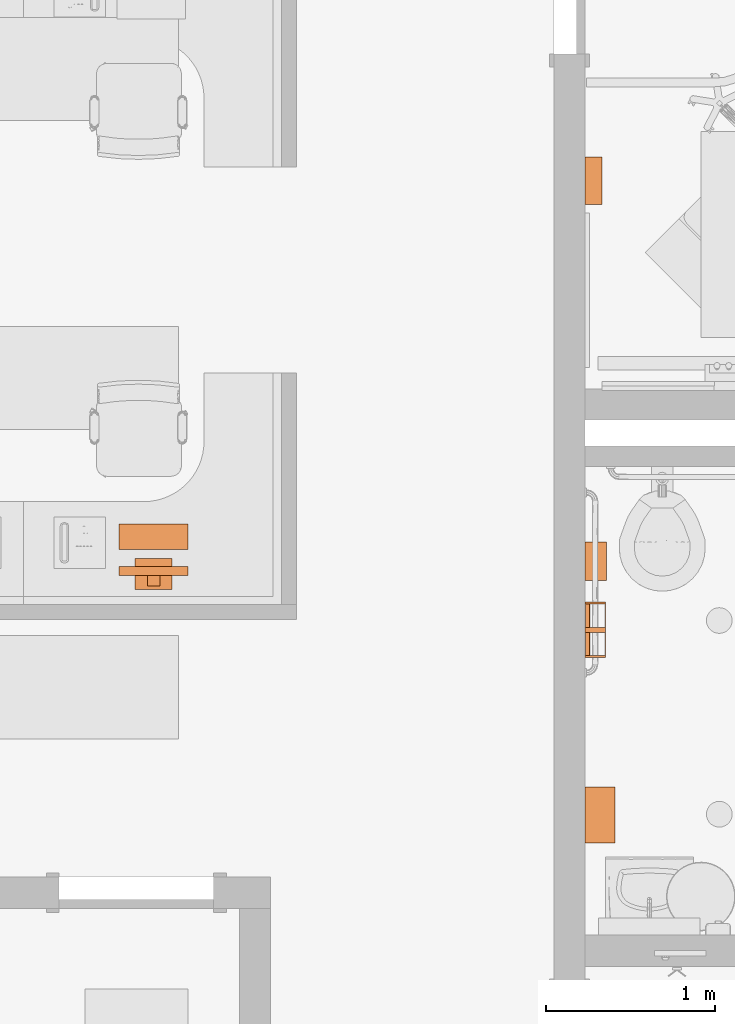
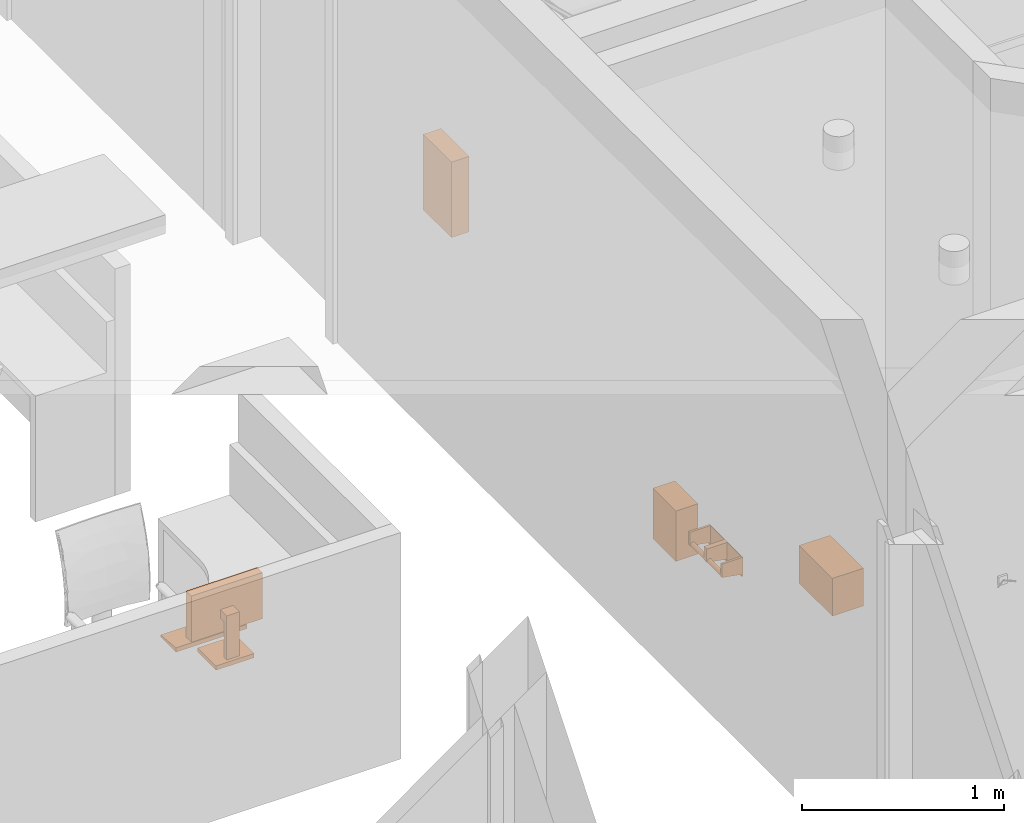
# One storey, part 88 of 142: 5 proxies.
"""IFC2X3 building model written with IfcOpenShell, lengths in feet."""

from ifc_helpers import new_model, entity, si_unit, converted_unit, derived_unit, direction, frame, frame_2d, origin, origin_2d_with_axis, place, context, subcontext, project, spatial, polyline, rectangle, circle, outline, extrude, faceted_brep, source, transform, mapped, type_object, type_shapes, element, save


model = new_model("IFC2X3")

# Units and contexts
model_context = context("Model", 3, precision=0.0001, world=origin(), true_north=direction((6.12303176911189e-17, 1.0)))
body_context = subcontext(model_context, "Body", "Model", "MODEL_VIEW")
ifc_project = project(units=[converted_unit("LENGTHUNIT", "FOOT", entity("IfcRatioMeasure", 0.3048), si_unit("LENGTHUNIT", "METRE"), dimensions=[1, 0, 0, 0, 0, 0, 0]), converted_unit("AREAUNIT", "SQUARE FOOT", entity("IfcRatioMeasure", 0.09290304), si_unit("AREAUNIT", "SQUARE_METRE"), dimensions=[2, 0, 0, 0, 0, 0, 0]), converted_unit("VOLUMEUNIT", "CUBIC FOOT", entity("IfcRatioMeasure", 0.028316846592), si_unit("VOLUMEUNIT", "CUBIC_METRE"), dimensions=[3, 0, 0, 0, 0, 0, 0]), converted_unit("PLANEANGLEUNIT", "DEGREE", entity("IfcRatioMeasure", 0.0174532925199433), si_unit("PLANEANGLEUNIT", "RADIAN"), dimensions=[0, 0, 0, 0, 0, 0, 0]), si_unit("MASSUNIT", "GRAM", prefix="KILO"), derived_unit("MASSDENSITYUNIT", [(si_unit("MASSUNIT", "GRAM", prefix="KILO"), 1), (si_unit("LENGTHUNIT", "METRE"), -3)]), si_unit("TIMEUNIT", "SECOND"), si_unit("FREQUENCYUNIT", "HERTZ"), si_unit("THERMODYNAMICTEMPERATUREUNIT", "DEGREE_CELSIUS"), derived_unit("THERMALTRANSMITTANCEUNIT", [(si_unit("MASSUNIT", "GRAM", prefix="KILO"), 1), (si_unit("THERMODYNAMICTEMPERATUREUNIT", "KELVIN"), -1), (si_unit("TIMEUNIT", "SECOND"), -3)]), derived_unit("VOLUMETRICFLOWRATEUNIT", [(si_unit("LENGTHUNIT", "METRE"), 3), (si_unit("TIMEUNIT", "SECOND"), -1)]), si_unit("ELECTRICCURRENTUNIT", "AMPERE"), si_unit("ELECTRICVOLTAGEUNIT", "VOLT"), si_unit("POWERUNIT", "WATT"), si_unit("FORCEUNIT", "NEWTON"), si_unit("ILLUMINANCEUNIT", "LUX"), si_unit("LUMINOUSFLUXUNIT", "LUMEN"), si_unit("LUMINOUSINTENSITYUNIT", "CANDELA"), derived_unit("USERDEFINED", [(si_unit("MASSUNIT", "GRAM", prefix="KILO"), -1), (si_unit("LENGTHUNIT", "METRE"), -2), (si_unit("TIMEUNIT", "SECOND"), 3), (si_unit("LUMINOUSFLUXUNIT", "LUMEN"), 1)]), derived_unit("LINEARVELOCITYUNIT", [(si_unit("LENGTHUNIT", "METRE"), 1), (si_unit("TIMEUNIT", "SECOND"), -1)]), si_unit("PRESSUREUNIT", "PASCAL"), derived_unit("USERDEFINED", [(si_unit("LENGTHUNIT", "METRE"), -2), (si_unit("MASSUNIT", "GRAM", prefix="KILO"), 1), (si_unit("TIMEUNIT", "SECOND"), -2)])], contexts=[model_context])

# Site, building, storey, space
site_placement = place(None, origin())
site = spatial("IfcSite", under=ifc_project, at=site_placement, Name="Default", CompositionType="ELEMENT")
building_placement = place(site_placement, origin())
building = spatial("IfcBuilding", under=site, at=building_placement, Name="OUTPATIENT / PACT CLINIC (Ch. 265)", CompositionType="ELEMENT")
storey_placement = place(building_placement, origin())
storey = spatial("IfcBuildingStorey", under=building, at=storey_placement, Name="LEVEL 1", CompositionType="ELEMENT", Elevation=0.0)
space_1_placement = place(storey_placement, origin())
space_1 = spatial("IfcSpace", under=storey, at=space_1_placement, Name="WRTM1", CompositionType="ELEMENT", InteriorOrExteriorSpace="INTERNAL")

# Proxy
building_element_proxy_type_1 = type_object("IfcBuildingElementProxyType", Name="M1801 - Computer with Flat Panel Monitor", PredefinedType="NOTDEFINED")
shared_shape_1 = source(origin(), body_context, "Body", "Brep", [
    faceted_brep([(0.666666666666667, 0.5625, 0.0), (0.666666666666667, 0.5625, 0.0416666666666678), (0.666666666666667, 0.0624999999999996, 0.0833333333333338), (0.666666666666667, 0.0624999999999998, 0.0), (-0.666666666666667, 0.5625, 0.0), (-0.666666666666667, 0.0624999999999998, 0.0), (-0.666666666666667, 0.0624999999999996, 0.0833333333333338), (-0.666666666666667, 0.5625, 0.0416666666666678)], [[[0, 1, 2, 3]], [[4, 5, 6, 7]], [[3, 5, 4, 0]], [[2, 6, 5, 3]], [[1, 7, 6, 2]], [[0, 4, 7, 1]]]),
    faceted_brep([(0.666666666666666, -0.437223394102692, 1.41666666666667), (0.666666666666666, -0.271109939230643, 1.41666666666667), (-0.666666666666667, -0.271109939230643, 1.41666666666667), (-0.666666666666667, -0.437223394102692, 1.41666666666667), (0.666666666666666, -0.437223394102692, 0.500000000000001), (-0.666666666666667, -0.437223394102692, 0.500000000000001), (-0.666666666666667, -0.271109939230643, 0.500000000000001), (0.666666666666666, -0.271109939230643, 0.500000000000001), (-0.625, -0.271109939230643, 1.375), (-0.625, -0.271109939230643, 0.541666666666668), (0.625, -0.271109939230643, 0.541666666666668), (0.625, -0.271109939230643, 1.375), (0.625, -0.286812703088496, 1.375), (-0.625, -0.286812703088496, 1.375), (0.625, -0.286812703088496, 0.541666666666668), (-0.625, -0.286812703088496, 0.541666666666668)], [[[0, 1, 2, 3]], [[4, 5, 6, 7]], [[3, 5, 4, 0]], [[2, 6, 5, 3]], [[8, 9, 10, 11], [1, 7, 6, 2]], [[0, 4, 7, 1]], [[12, 13, 8, 11]], [[14, 10, 9, 15]], [[12, 14, 15, 13]], [[13, 15, 9, 8]], [[11, 10, 14, 12]]], outer=[[True], [True], [True], [True], [False, True], [True], [True], [True], [True], [True], [True]]),
    faceted_brep([(0.358011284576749, -0.111770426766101, 0.0833333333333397), (0.358011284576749, -0.708333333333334, 0.0833333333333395), (0.358011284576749, -0.708333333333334, 0.0), (0.358011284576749, -0.111770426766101, 0.0), (-0.358011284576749, -0.708333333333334, 0.0833333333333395), (-0.358011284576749, -0.111770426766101, 0.0833333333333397), (-0.358011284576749, -0.111770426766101, 0.0), (-0.358011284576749, -0.708333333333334, 0.0), (0.12128795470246, -0.645556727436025, 0.104166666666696), (-0.12128795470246, -0.645556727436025, 0.104166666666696), (-0.12128795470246, -0.645556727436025, 0.0833333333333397), (0.12128795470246, -0.645556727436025, 0.0833333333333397), (0.12128795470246, -0.645556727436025, 0.958333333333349), (-0.12128795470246, -0.645556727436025, 0.958333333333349), (0.12128795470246, -0.437223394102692, 0.958333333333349), (-0.12128795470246, -0.437223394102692, 0.958333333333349), (0.12128795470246, -0.437223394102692, 0.791666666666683), (-0.12128795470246, -0.437223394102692, 0.791666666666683), (0.12128795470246, -0.562223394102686, 0.791666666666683), (-0.12128795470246, -0.562223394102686, 0.791666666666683), (0.12128795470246, -0.562223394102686, 0.0833333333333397), (-0.12128795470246, -0.562223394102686, 0.0833333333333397)], [[[0, 1, 2, 3]], [[4, 5, 6, 7]], [[8, 9, 10, 11]], [[12, 13, 9, 8]], [[14, 15, 13, 12]], [[16, 17, 15, 14]], [[18, 19, 17, 16]], [[20, 21, 19, 18]], [[11, 10, 21, 20], [0, 5, 4, 1]], [[3, 6, 5, 0]], [[2, 7, 6, 3]], [[1, 4, 7, 2]], [[20, 18, 16, 14, 12, 8, 11]], [[10, 9, 13, 15, 17, 19, 21]]], outer=[[True], [True], [True], [True], [True], [True], [True], [True], [False, True], [True], [True], [True], [True], [True]]),
])
type_shapes(building_element_proxy_type_1, [shared_shape_1])
proxy_1_placement = place(space_1_placement, frame((426.87856468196, -934.622044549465, 2.49999999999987)))
element("IfcBuildingElementProxy", 1, at=proxy_1_placement, inside=space_1, type_object=building_element_proxy_type_1, Name="M1801 - Computer with Flat Panel Monitor:M1801 - Computer with Flat Panel Monitor", ObjectType="M1801 - Computer with Flat Panel Monitor", context=body_context, shape_type="MappedRepresentation", body=[
    mapped(shared_shape_1, transform((0.0, 0.0, 0.0), scale=1.0)),
])

# Space
space_2_placement = place(storey_placement, origin())
space_2 = spatial("IfcSpace", under=storey, at=space_2_placement, Name="EXW01", CompositionType="ELEMENT", InteriorOrExteriorSpace="INTERNAL")

# Proxy
building_element_proxy_type_2 = type_object("IfcBuildingElementProxyType", Name="A5107 - Dispenser, Glove, Surgical-Examination, Wall Mntd 10\"x 4\"", PredefinedType="NOTDEFINED")
shared_shape_2 = source(origin(), body_context, "Body", "SweptSolid", [
    extrude(rectangle(XDim=0.916666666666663, YDim=0.333333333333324, at=frame_2d((0.0, 2.77555756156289e-17), x_axis=(1.0, 0.0))), frame((0.0, -0.166666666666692, 0.0), z_axis=(0.0, 0.0, 1.0), x_axis=(-1.0, 0.0, 0.0)), (0.0, 0.0, 1.0), 1.5),
])
type_shapes(building_element_proxy_type_2, [shared_shape_2])
proxy_2_placement = place(space_2_placement, frame((435.254977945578, -927.399675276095, 3.5), z_axis=(0.0, 0.0, 1.0), x_axis=(0.0, 1.0, 0.0)))
element("IfcBuildingElementProxy", 2, at=proxy_2_placement, inside=space_2, type_object=building_element_proxy_type_2, Name="A5107 - Dispenser, Glove, Surgical-Examination, Wall Mntd1:A5107 - Dispenser, Glove, Surgical-Examination, Wall Mntd 10\"x 4\"", ObjectType="A5107 - Dispenser, Glove, Surgical-Examination, Wall Mntd 10\"x 4\"", context=body_context, shape_type="MappedRepresentation", body=[
    mapped(shared_shape_2, transform((0.0, 0.0, 0.0), scale=1.0)),
])

# Space
space_3_placement = place(storey_placement, origin())
space_3 = spatial("IfcSpace", under=storey, at=space_3_placement, Name="TPG01", CompositionType="ELEMENT", InteriorOrExteriorSpace="INTERNAL")

# Proxies
building_element_proxy_type_3 = type_object("IfcBuildingElementProxyType", Name="A5200 - Dispenser, Toilet Tissue, SS, 2-Roll, Surface Mntd", PredefinedType="NOTDEFINED")
shared_shape_3 = source(origin(), body_context, "Body", "SweptSolid", [
    extrude(circle(Radius=0.0439072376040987, at=frame_2d((-4.93038065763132e-32, -5.55111512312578e-17), x_axis=(1.0, 0.0))), frame((0.0468750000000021, -0.344872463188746, 0.125668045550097), z_axis=(1.0, 0.0, 0.0), x_axis=(0.0, 0.0, 1.0)), (0.0, 0.0, 1.0), 0.453124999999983),
    extrude(circle(Radius=0.0061848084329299, at=origin_2d_with_axis()), frame((0.0468750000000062, -0.34487246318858, 0.125668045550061), z_axis=(1.0, 0.0, 0.0), x_axis=(0.0, -1.0, 0.0)), (0.0, 0.0, 1.0), 0.453124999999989),
    extrude(circle(Radius=0.0439072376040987, at=frame_2d((-9.86076131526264e-32, -1.11022302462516e-16), x_axis=(1.0, 0.0))), frame((-0.500000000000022, -0.344872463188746, 0.125668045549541), z_axis=(1.0, 0.0, 0.0), x_axis=(0.0, 0.0, 1.0)), (0.0, 0.0, 1.0), 0.453124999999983),
    extrude(rectangle(XDim=0.0104166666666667, YDim=0.541666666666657, at=origin_2d_with_axis()), frame((0.270833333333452, -0.00520833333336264, 0.0), z_axis=(0.0, 0.0, 1.0), x_axis=(0.0, 1.0, 0.0)), (0.0, 0.0, 1.0), 0.375668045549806),
    extrude(outline(polyline([(-0.140625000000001, -0.225313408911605), (0.255208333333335, -0.225313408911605), (0.255208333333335, 0.0412295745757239), (-0.114583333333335, 0.108687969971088), (-0.114583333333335, 0.150354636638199), (-0.140625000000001, 0.150354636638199), (-0.140625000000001, -0.225313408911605)])), frame((0.0, -0.140625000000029, 0.15035463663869), z_axis=(1.0, 0.0, 0.0), x_axis=(0.0, -1.0, 0.0)), (0.0, 0.0, 1.0), 0.0468750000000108),
    extrude(outline(polyline([(-0.140625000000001, -0.225313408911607), (0.255208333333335, -0.225313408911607), (0.255208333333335, 0.0412295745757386), (-0.114583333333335, 0.108687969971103), (-0.114583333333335, 0.150354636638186), (-0.140625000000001, 0.150354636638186), (-0.140625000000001, -0.225313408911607)])), frame((0.49999999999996, -0.140625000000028, 0.150354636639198), z_axis=(1.0, 0.0, 0.0), x_axis=(0.0, -1.0, 0.0)), (0.0, 0.0, 1.0), 0.0416666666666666),
    extrude(circle(Radius=0.0061848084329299, at=frame_2d((-2.46519032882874e-32, -2.77555756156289e-17), x_axis=(1.0, 0.0))), frame((-0.500000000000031, -0.344872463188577, 0.125668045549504), z_axis=(1.0, 0.0, 0.0), x_axis=(0.0, -1.0, 0.0)), (0.0, 0.0, 1.0), 0.453124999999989),
    extrude(rectangle(XDim=0.0104166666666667, YDim=0.541666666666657, at=origin_2d_with_axis()), frame((-0.27083333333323, -0.00520833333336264, 0.0), z_axis=(0.0, 0.0, 1.0), x_axis=(0.0, 1.0, 0.0)), (0.0, 0.0, 1.0), 0.375668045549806),
    extrude(outline(polyline([(-0.140625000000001, -0.225313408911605), (0.255208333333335, -0.225313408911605), (0.255208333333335, 0.041229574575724), (-0.114583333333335, 0.108687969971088), (-0.114583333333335, 0.150354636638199), (-0.140625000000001, 0.150354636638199), (-0.140625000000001, -0.225313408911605)])), frame((-0.0468750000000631, -0.140625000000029, 0.150354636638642), z_axis=(1.0, 0.0, 0.0), x_axis=(0.0, -1.0, 0.0)), (0.0, 0.0, 1.0), 0.0468750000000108),
    extrude(outline(polyline([(-0.140625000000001, -0.225313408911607), (0.255208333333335, -0.225313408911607), (0.255208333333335, 0.0412295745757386), (-0.114583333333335, 0.108687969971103), (-0.114583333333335, 0.150354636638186), (-0.140625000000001, 0.150354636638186), (-0.140625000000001, -0.225313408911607)])), frame((-0.541666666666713, -0.140625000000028, 0.150354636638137), z_axis=(1.0, 0.0, 0.0), x_axis=(0.0, -1.0, 0.0)), (0.0, 0.0, 1.0), 0.0416666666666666),
])
type_shapes(building_element_proxy_type_3, [shared_shape_3])
proxy_3_placement = place(space_3_placement, frame((435.650867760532, -936.118425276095, 1.97884114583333), z_axis=(0.0, 0.0, 1.0), x_axis=(0.0, -1.0, 0.0)))
element("IfcBuildingElementProxy", 3, at=proxy_3_placement, inside=space_3, type_object=building_element_proxy_type_3, Name="A5200 - Dispenser, Toilet Tissue, SS, 2-Roll, Surface Mntd1:A5200 - Dispenser, Toilet Tissue, SS, 2-Roll, Surface Mntd", ObjectType="A5200 - Dispenser, Toilet Tissue, SS, 2-Roll, Surface Mntd", context=body_context, shape_type="MappedRepresentation", body=[
    mapped(shared_shape_3, transform((0.0, 0.0, 0.0), scale=1.0)),
])
building_element_proxy_type_4 = type_object("IfcBuildingElementProxyType", Name="A5090 - Dispenser, Sanitary Napkin, SS, Surface Mounted", PredefinedType="NOTDEFINED")
shared_shape_4 = source(origin(), body_context, "Body", "SweptSolid", [
    extrude(rectangle(XDim=0.0833333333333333, YDim=0.75, at=origin_2d_with_axis()), frame((0.0, -0.0416666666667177, 0.87500000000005), z_axis=(0.0, 0.0, 1.0), x_axis=(0.0, 1.0, 0.0)), (0.0, 0.0, 1.0), 0.125000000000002),
    extrude(outline(polyline([(-0.0828981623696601, -0.378205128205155), (0.0421018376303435, -0.378205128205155), (0.042101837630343, -0.0865384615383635), (0.0166807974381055, -0.0793339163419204), (-0.0043447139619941, -0.0589660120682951), (-0.017339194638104, -0.0289565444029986), (-0.0200557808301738, 0.0055055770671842), (-0.0120247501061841, 0.038461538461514), (0.00536525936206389, 0.0642129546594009), (0.0291073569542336, 0.0783071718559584), (0.0421018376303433, 0.0801282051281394), (0.0421018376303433, 0.371794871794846), (-0.0828981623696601, 0.371794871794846), (-0.0828981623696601, -0.378205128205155)])), frame((-0.00320512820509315, -0.416666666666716, 0.917101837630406), z_axis=(0.0, 1.0, 0.0), x_axis=(0.0, 0.0, -1.0)), (0.0, 0.0, 1.0), 0.333333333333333),
    extrude(rectangle(XDim=0.416666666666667, YDim=0.749999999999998, at=origin_2d_with_axis()), frame((0.0, -0.208333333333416, 0.0), z_axis=(0.0, 0.0, 1.0), x_axis=(0.0, 1.0, 0.0)), (0.0, 0.0, 1.0), 0.875000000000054),
])
type_shapes(building_element_proxy_type_4, [shared_shape_4])
proxy_4_placement = place(space_3_placement, frame((435.255034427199, -934.785091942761, 1.5), z_axis=(0.0, 0.0, 1.0), x_axis=(0.0, 1.0, 0.0)))
element("IfcBuildingElementProxy", 4, at=proxy_4_placement, inside=space_3, type_object=building_element_proxy_type_4, Name="A5090 - Dispenser, Sanitary Napkin, SS, Surface Mounted1:A5090 - Dispenser, Sanitary Napkin, SS, Surface Mounted", ObjectType="A5090 - Dispenser, Sanitary Napkin, SS, Surface Mounted", context=body_context, shape_type="MappedRepresentation", body=[
    mapped(shared_shape_4, transform((0.0, 0.0, 0.0), scale=1.0)),
])
building_element_proxy_type_5 = type_object("IfcBuildingElementProxyType", Name="A5080 - Dispenser, Paper Towel", PredefinedType="NOTDEFINED")
shared_shape_5 = source(origin(), body_context, "Body", "SweptSolid", [
    extrude(rectangle(XDim=0.58333333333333, YDim=1.08333333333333, at=frame_2d((9.99200722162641e-16, 0.0), x_axis=(1.0, 0.0))), frame((0.0, -0.291666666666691, 0.0), z_axis=(0.0, 0.0, 1.0), x_axis=(0.0, 1.0, 0.0)), (0.0, 0.0, 1.0), 0.75),
])
type_shapes(building_element_proxy_type_5, [shared_shape_5])
proxy_5_placement = place(space_3_placement, frame((435.254976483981, -939.712155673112, 3.5), z_axis=(0.0, 0.0, 1.0), x_axis=(0.0, 1.0, 0.0)))
element("IfcBuildingElementProxy", 5, at=proxy_5_placement, inside=space_3, type_object=building_element_proxy_type_5, Name="A5080 - Dispenser, Paper Towel:A5080 - Dispenser, Paper Towel", ObjectType="A5080 - Dispenser, Paper Towel", context=body_context, shape_type="MappedRepresentation", body=[
    mapped(shared_shape_5, transform((0.0, 0.0, 0.0), scale=1.0)),
])

save(model, "model.ifc")
